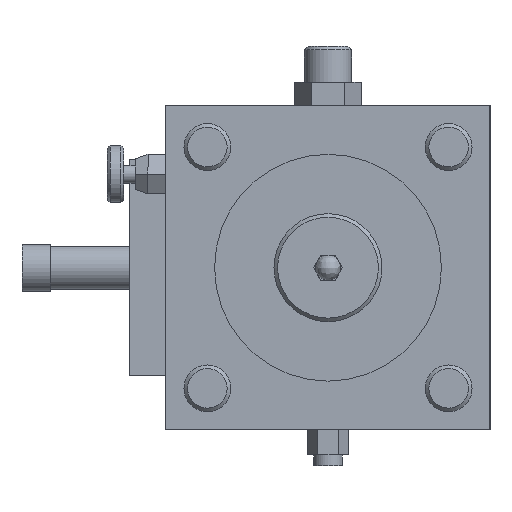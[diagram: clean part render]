
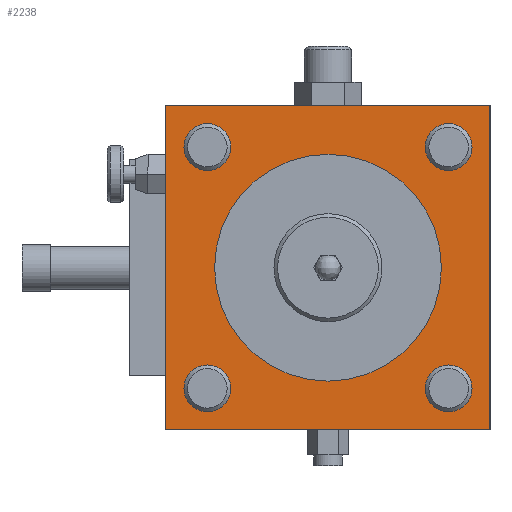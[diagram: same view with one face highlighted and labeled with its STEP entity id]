
A CAD part, left-side view. The second image highlights one B-rep face of the part: STEP entity #2238.
In plain terms, the highlighted planar face has unit normal (-1, 0, 0).
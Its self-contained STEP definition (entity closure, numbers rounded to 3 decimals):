
#75 = CARTESIAN_POINT ( 'NONE',  ( -434., -33.517, 33.517 ) ) ;
#81 = AXIS2_PLACEMENT_3D ( 'NONE', #2795, #1997, #465 ) ;
#113 = VERTEX_POINT ( 'NONE', #1042 ) ;
#116 = CARTESIAN_POINT ( 'NONE',  ( -434., 0., 31.5 ) ) ;
#252 = AXIS2_PLACEMENT_3D ( 'NONE', #1736, #972, #1749 ) ;
#299 = AXIS2_PLACEMENT_3D ( 'NONE', #3179, #1549, #2603 ) ;
#386 = VERTEX_POINT ( 'NONE', #1874 ) ;
#465 = DIRECTION ( 'NONE',  ( 0., 0., 1. ) ) ;
#474 = VECTOR ( 'NONE', #3091, 1000. ) ;
#483 = FACE_BOUND ( 'NONE', #2614, .T. ) ;
#501 = CARTESIAN_POINT ( 'NONE',  ( -434., 45., 45. ) ) ;
#630 = CARTESIAN_POINT ( 'NONE',  ( -434., 33.517, -27.017 ) ) ;
#668 = VECTOR ( 'NONE', #2283, 1000. ) ;
#677 = EDGE_LOOP ( 'NONE', ( #1635 ) ) ;
#684 = LINE ( 'NONE', #2515, #474 ) ;
#767 = ORIENTED_EDGE ( 'NONE', *, *, #2847, .F. ) ;
#804 = CIRCLE ( 'NONE', #1784, 6.5 ) ;
#810 = EDGE_CURVE ( 'NONE', #2545, #113, #916, .T. ) ;
#916 = LINE ( 'NONE', #2784, #668 ) ;
#963 = VECTOR ( 'NONE', #1251, 1000. ) ;
#971 = ORIENTED_EDGE ( 'NONE', *, *, #810, .F. ) ;
#972 = DIRECTION ( 'NONE',  ( 1., 0., 0. ) ) ;
#979 = PLANE ( 'NONE',  #81 ) ;
#989 = CARTESIAN_POINT ( 'NONE',  ( -434., -33.517, 40.017 ) ) ;
#994 = FACE_BOUND ( 'NONE', #677, .T. ) ;
#1042 = CARTESIAN_POINT ( 'NONE',  ( -434., 45., 45. ) ) ;
#1070 = AXIS2_PLACEMENT_3D ( 'NONE', #1643, #1931, #2206 ) ;
#1229 = EDGE_LOOP ( 'NONE', ( #3329 ) ) ;
#1251 = DIRECTION ( 'NONE',  ( 0., 0., -1. ) ) ;
#1253 = ORIENTED_EDGE ( 'NONE', *, *, #3245, .F. ) ;
#1433 = VERTEX_POINT ( 'NONE', #116 ) ;
#1438 = EDGE_LOOP ( 'NONE', ( #2176 ) ) ;
#1469 = VERTEX_POINT ( 'NONE', #2358 ) ;
#1473 = LINE ( 'NONE', #3371, #963 ) ;
#1549 = DIRECTION ( 'NONE',  ( 1., 0., 0. ) ) ;
#1556 = FACE_BOUND ( 'NONE', #1438, .T. ) ;
#1560 = CARTESIAN_POINT ( 'NONE',  ( -434., -45., -45. ) ) ;
#1635 = ORIENTED_EDGE ( 'NONE', *, *, #2650, .T. ) ;
#1643 = CARTESIAN_POINT ( 'NONE',  ( -434., -33.517, -33.517 ) ) ;
#1676 = CARTESIAN_POINT ( 'NONE',  ( -434., -33.517, -27.017 ) ) ;
#1730 = DIRECTION ( 'NONE',  ( 1., 0., 0. ) ) ;
#1736 = CARTESIAN_POINT ( 'NONE',  ( -434., 33.517, -33.517 ) ) ;
#1749 = DIRECTION ( 'NONE',  ( 0., 0., 1. ) ) ;
#1757 = FACE_BOUND ( 'NONE', #2162, .T. ) ;
#1784 = AXIS2_PLACEMENT_3D ( 'NONE', #75, #2728, #2464 ) ;
#1874 = CARTESIAN_POINT ( 'NONE',  ( -434., 33.517, 40.017 ) ) ;
#1883 = VECTOR ( 'NONE', #2056, 1000. ) ;
#1931 = DIRECTION ( 'NONE',  ( 1., 0., 0. ) ) ;
#1993 = EDGE_LOOP ( 'NONE', ( #2540, #971, #1253, #767 ) ) ;
#1997 = DIRECTION ( 'NONE',  ( -1., 0., 0. ) ) ;
#2056 = DIRECTION ( 'NONE',  ( 0., -1., 0. ) ) ;
#2140 = EDGE_CURVE ( 'NONE', #386, #386, #3034, .T. ) ;
#2162 = EDGE_LOOP ( 'NONE', ( #2448 ) ) ;
#2169 = VERTEX_POINT ( 'NONE', #630 ) ;
#2176 = ORIENTED_EDGE ( 'NONE', *, *, #2694, .T. ) ;
#2206 = DIRECTION ( 'NONE',  ( 0., 0., 1. ) ) ;
#2238 = ADVANCED_FACE ( 'NONE', ( #483, #1556, #1757, #2279, #994, #3331 ), #979, .T. ) ;
#2239 = CARTESIAN_POINT ( 'NONE',  ( -434., 33.517, 33.517 ) ) ;
#2270 = VERTEX_POINT ( 'NONE', #989 ) ;
#2279 = FACE_BOUND ( 'NONE', #1229, .T. ) ;
#2283 = DIRECTION ( 'NONE',  ( 0., 0., 1. ) ) ;
#2328 = CIRCLE ( 'NONE', #252, 6.5 ) ;
#2339 = ORIENTED_EDGE ( 'NONE', *, *, #3131, .T. ) ;
#2358 = CARTESIAN_POINT ( 'NONE',  ( -434., -45., 45. ) ) ;
#2438 = CIRCLE ( 'NONE', #1070, 6.5 ) ;
#2448 = ORIENTED_EDGE ( 'NONE', *, *, #2504, .T. ) ;
#2464 = DIRECTION ( 'NONE',  ( 0., 0., 1. ) ) ;
#2504 = EDGE_CURVE ( 'NONE', #2169, #2169, #2328, .T. ) ;
#2515 = CARTESIAN_POINT ( 'NONE',  ( -434., -45., -45. ) ) ;
#2540 = ORIENTED_EDGE ( 'NONE', *, *, #2857, .F. ) ;
#2544 = CIRCLE ( 'NONE', #299, 31.5 ) ;
#2545 = VERTEX_POINT ( 'NONE', #3287 ) ;
#2603 = DIRECTION ( 'NONE',  ( 0., 0., 1. ) ) ;
#2614 = EDGE_LOOP ( 'NONE', ( #2339 ) ) ;
#2650 = EDGE_CURVE ( 'NONE', #1433, #1433, #2544, .T. ) ;
#2694 = EDGE_CURVE ( 'NONE', #2723, #2723, #2438, .T. ) ;
#2705 = AXIS2_PLACEMENT_3D ( 'NONE', #2239, #1730, #2815 ) ;
#2723 = VERTEX_POINT ( 'NONE', #1676 ) ;
#2728 = DIRECTION ( 'NONE',  ( 1., 0., 0. ) ) ;
#2784 = CARTESIAN_POINT ( 'NONE',  ( -434., 45., -45. ) ) ;
#2795 = CARTESIAN_POINT ( 'NONE',  ( -434., 0., 0. ) ) ;
#2815 = DIRECTION ( 'NONE',  ( 0., 0., 1. ) ) ;
#2847 = EDGE_CURVE ( 'NONE', #1469, #3011, #1473, .T. ) ;
#2857 = EDGE_CURVE ( 'NONE', #113, #1469, #3318, .T. ) ;
#3011 = VERTEX_POINT ( 'NONE', #1560 ) ;
#3034 = CIRCLE ( 'NONE', #2705, 6.5 ) ;
#3091 = DIRECTION ( 'NONE',  ( 0., 1., 0. ) ) ;
#3131 = EDGE_CURVE ( 'NONE', #2270, #2270, #804, .T. ) ;
#3179 = CARTESIAN_POINT ( 'NONE',  ( -434., 0., 0. ) ) ;
#3245 = EDGE_CURVE ( 'NONE', #3011, #2545, #684, .T. ) ;
#3287 = CARTESIAN_POINT ( 'NONE',  ( -434., 45., -45. ) ) ;
#3318 = LINE ( 'NONE', #501, #1883 ) ;
#3329 = ORIENTED_EDGE ( 'NONE', *, *, #2140, .T. ) ;
#3331 = FACE_OUTER_BOUND ( 'NONE', #1993, .T. ) ;
#3371 = CARTESIAN_POINT ( 'NONE',  ( -434., -45., 45. ) ) ;
